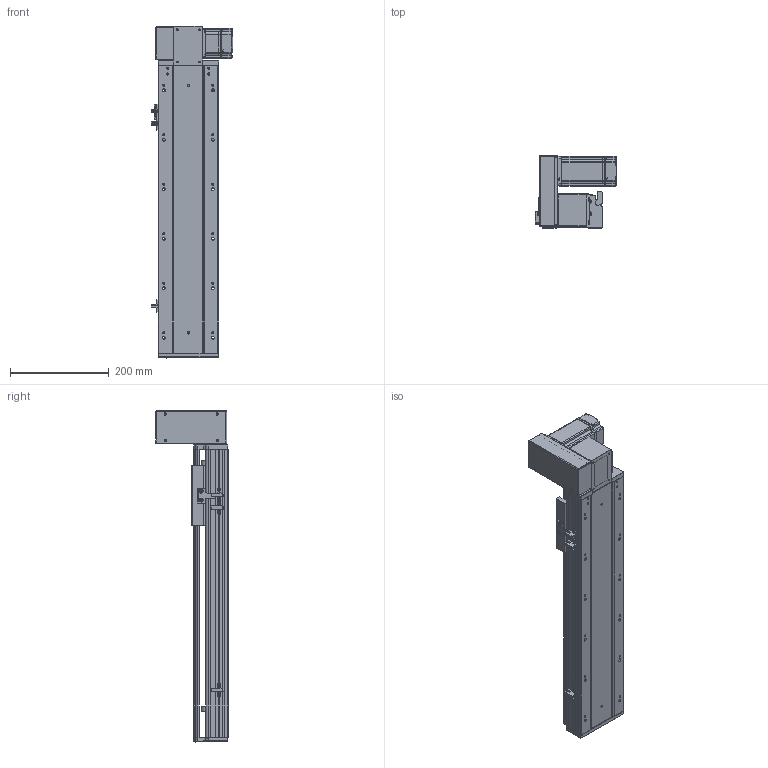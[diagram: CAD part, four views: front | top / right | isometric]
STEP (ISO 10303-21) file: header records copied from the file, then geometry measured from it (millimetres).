
FILE_DESCRIPTION (( 'STEP AP203' ), '1' );
FILE_NAME ('RY120-T-300-UL.SLDASM_350.step', '2021-03-01T05:35:08', ( '盈信电脑' ), ( '东莞市道滘镇水果街19号' ), 'SwSTEP 2.0', 'SolidWorks 2012', '' );
FILE_SCHEMA (( 'CONFIG_CONTROL_DESIGN' ));
Length unit declared in the file: millimetre
Products named in the file (18): RY120-T-300-UL.SLDASM_350; RY120-T翋肮祭謫裔啣; RY120-T蹟翐M4; 滅袉蝶18-10; RY120-T萇儂欶; RY120-T主同步轮轴承压盖; 侂狟400W侜督萇儂; RY120-T萇儂假蚾啣; 15; RY120-T翋肮祭盓傅釱; RY120-T肮祭湍揤踡輸2; RY120外置感应片(140共用）; 覜茼ん672; RY120-T肮祭湍揤踡輸1; RY120-T-300-UL倰第奻裔啣_350; RY120-T-300-UL倰第菁釱_350; RY120肮祭湍臏賑輸; RY120綴裔啣
Assembly tree (23 placements, depth 3):
  RY120-T-300-UL.SLDASM_350
    RY120-T-300-UL倰第菁釱_350
    RY120-T-300-UL倰第奻裔啣_350
    RY120肮祭湍臏賑輸
    RY120綴裔啣
    覜茼ん672  x3
    RY120外置感应片(140共用）
    RY120-T肮祭湍揤踡輸1
    RY120-T肮祭湍揤踡輸2
    RY120-T翋肮祭盓傅釱
    RY120-T萇儂假蚾啣
    侂狟400W侜督萇儂
      15
    RY120-T主同步轮轴承压盖
    滅袉蝶18-10  x2
    RY120-T萇儂欶
    RY120-T蹟翐M4  x4
    RY120-T翋肮祭謫裔啣
Bounding box: 164.2 x 146 x 671 mm (x, y, z)
Volume: 2191903.9 mm3; surface area: 786987.6 mm2
Topology: 23 solids, 23 shells, 2690 faces, 7332 edges, 4728 vertices
Faces by surface type: plane 1406, cylinder 990, cone 205, bspline 89
Entity records: 85548 total; most frequent: CARTESIAN_POINT 21568, ORIENTED_EDGE 13176, DIRECTION 12438, EDGE_CURVE 6588, VERTEX_POINT 4315, LINE 4180, VECTOR 4180, AXIS2_PLACEMENT_3D 4129
